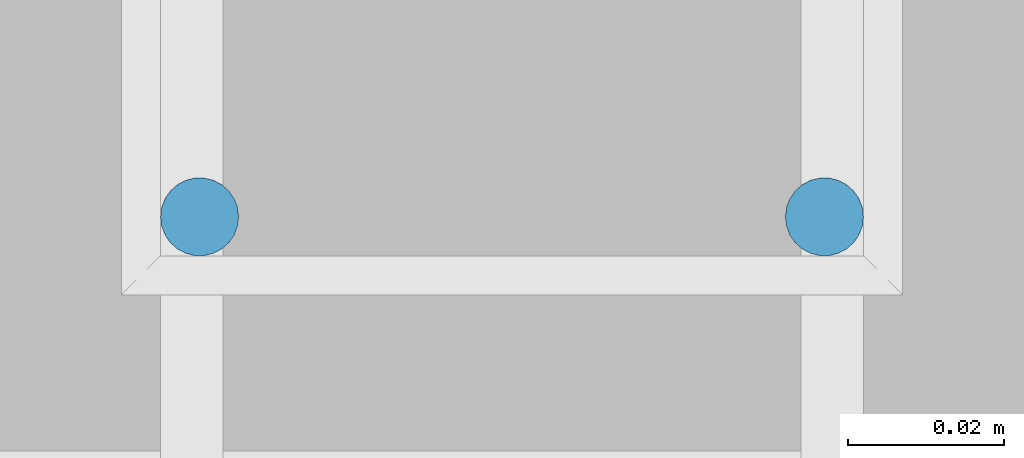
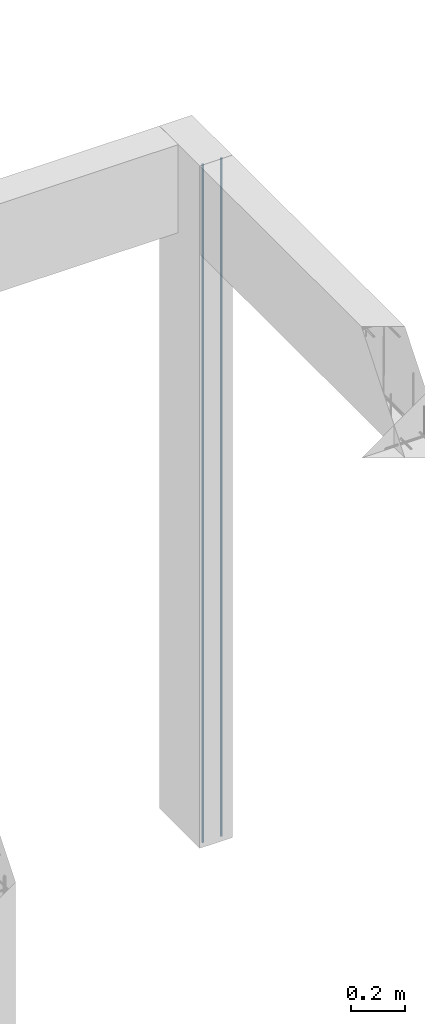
# One storey, part 80 of 236: 2 reinforcing bars.
"""IFC4 building model written with IfcOpenShell, lengths in centimetres."""

from ifc_helpers import new_model, entity, si_unit, derived_unit, frame, origin_with_axes, place, context, project, spatial, element, save


model = new_model("IFC4")

# Units and contexts
model_context = context("Model", 3, precision=1e-05, world=origin_with_axes(), identifier="Body")
ifc_project = project(units=[si_unit("LENGTHUNIT", "METRE", prefix="CENTI"), si_unit("VOLUMEUNIT", "CUBIC_METRE"), si_unit("AREAUNIT", "SQUARE_METRE"), si_unit("POWERUNIT", "WATT"), si_unit("LUMINOUSFLUXUNIT", "LUMEN"), si_unit("ELECTRICCURRENTUNIT", "AMPERE"), si_unit("PRESSUREUNIT", "PASCAL", prefix="KILO"), si_unit("MASSUNIT", "GRAM", prefix="KILO"), si_unit("PLANEANGLEUNIT", "RADIAN"), derived_unit("VOLUMETRICFLOWRATEUNIT", [(si_unit("LENGTHUNIT", "METRE"), 3), (si_unit("TIMEUNIT", "SECOND"), -1)])], contexts=[model_context])

# Site, building, storey
site_placement = place(None, frame((-4000.0, 0.0, 0.0), z_axis=(0.0, 0.0, 1.0), x_axis=(1.0, 0.0, 0.0)))
site = spatial("IfcSite", under=ifc_project, at=site_placement, Name="PADRÃO")
building_placement = place(site_placement, frame((0.0, 0.0, -14.0)))
building = spatial("IfcBuilding", under=site, at=building_placement, Name="CRECHE PRÉ-ESCOLA TIPO 2")
placement_1 = place(building_placement, origin_with_axes())
placement_2 = place(placement_1, frame((0.0, 0.0, 30.0), z_axis=(0.0, 0.0, 1.0), x_axis=(1.0, 0.0, 0.0)))
storey_placement = place(placement_2, frame((0.0, 0.0, 310.0), z_axis=(0.0, 0.0, 1.0), x_axis=(1.0, 0.0, 0.0)))
storey = spatial("IfcBuildingStorey", under=building, at=storey_placement, Name="TERREO", CompositionType="ELEMENT", Elevation=326.0)

# Reinforcing bars
for number, where, z_axis, x_axis, name in (
    (1, (2722.75, 1902.52, -2.0), (0.0, 0.0, 1.0), (1.0, 0.0, 0.0), "P90 - Longitudinal"),
    (2, (2714.75, 1902.52, -2.0), (0.0, 0.0, 1.0), (1.0, 0.0, 0.0), "P90 - Longitudinal"),
):
    element("IfcReinforcingBar", number, at=place(storey_placement, frame(where, z_axis=z_axis, x_axis=x_axis)), inside=storey, Name=name, BarLength=0.0, CrossSectionArea=7.853981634e-05, NominalDiameter=1.0, PredefinedType="MAIN", context=model_context, shape_type="AdvancedSweptSolid", body=[
        entity("IfcSweptDiskSolid", entity("IfcCompositeCurve", [entity("IfcCompositeCurveSegment", "CONTINUOUS", True, entity("IfcPolyline", [entity("IfcCartesianPoint", [0.0, 0.0, -308.0]), entity("IfcCartesianPoint", [0.0, 0.0, 0.0])]))], False), 0.5),
    ])

save(model, "model.ifc")
